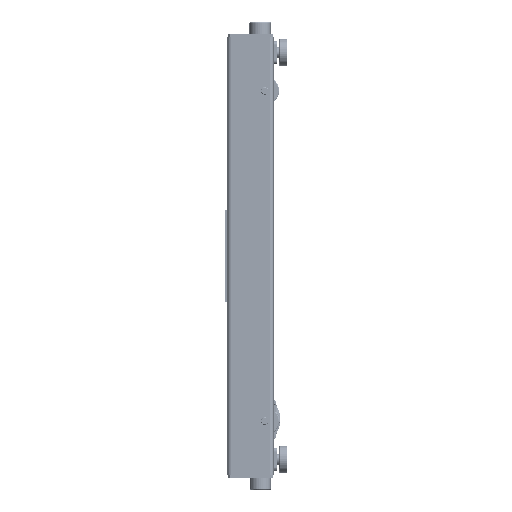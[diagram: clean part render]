
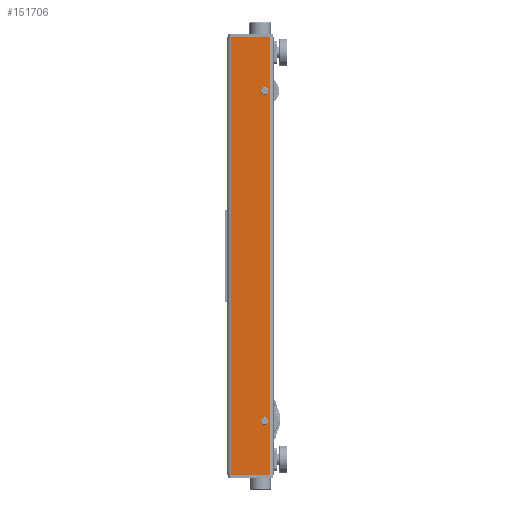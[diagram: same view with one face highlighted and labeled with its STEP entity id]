
A CAD part, left-side view. The second image highlights one B-rep face of the part: STEP entity #151706.
In plain terms, the highlighted planar face has unit normal (-1, 0, 0).
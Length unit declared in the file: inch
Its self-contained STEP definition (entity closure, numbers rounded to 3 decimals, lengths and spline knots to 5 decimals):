
#3448 = DIRECTION ( 'NONE',  ( 0., -1., 0. ) ) ;
#6006 = CARTESIAN_POINT ( 'NONE',  ( 0., 0.5, -28.5625 ) ) ;
#12121 = VECTOR ( 'NONE', #3448, 39.37008 ) ;
#14020 = DIRECTION ( 'NONE',  ( 0., 1., 0. ) ) ;
#14805 = FACE_BOUND ( 'NONE', #133606, .T. ) ;
#22388 = EDGE_CURVE ( 'NONE', #128315, #112074, #40128, .T. ) ;
#25956 = VECTOR ( 'NONE', #46142, 39.37008 ) ;
#26739 = VERTEX_POINT ( 'NONE', #48445 ) ;
#26890 = AXIS2_PLACEMENT_3D ( 'NONE', #117154, #105209, #154714 ) ;
#28764 = ORIENTED_EDGE ( 'NONE', *, *, #129044, .T. ) ;
#29024 = CARTESIAN_POINT ( 'NONE',  ( 0., 5.5, 28.5625 ) ) ;
#31302 = EDGE_CURVE ( 'NONE', #45997, #26739, #146678, .T. ) ;
#32058 = AXIS2_PLACEMENT_3D ( 'NONE', #123244, #63440, #14020 ) ;
#40128 = CIRCLE ( 'NONE', #63000, 0.4925 ) ;
#41900 = VECTOR ( 'NONE', #68180, 39.37008 ) ;
#44699 = CIRCLE ( 'NONE', #26890, 0.4925 ) ;
#44794 = CARTESIAN_POINT ( 'NONE',  ( 0., 5.5, -28.5625 ) ) ;
#45997 = VERTEX_POINT ( 'NONE', #129105 ) ;
#46142 = DIRECTION ( 'NONE',  ( 0., 0., -1. ) ) ;
#48445 = CARTESIAN_POINT ( 'NONE',  ( 0., 1.6375, -21.5005 ) ) ;
#52262 = FACE_BOUND ( 'NONE', #127250, .T. ) ;
#57476 = DIRECTION ( 'NONE',  ( 0., 1., 0. ) ) ;
#58518 = EDGE_CURVE ( 'NONE', #80192, #107653, #116331, .T. ) ;
#63000 = AXIS2_PLACEMENT_3D ( 'NONE', #91673, #70079, #152365 ) ;
#63440 = DIRECTION ( 'NONE',  ( 1., 0., 0. ) ) ;
#66600 = CARTESIAN_POINT ( 'NONE',  ( 0., 0.5, 28.5625 ) ) ;
#67969 = ORIENTED_EDGE ( 'NONE', *, *, #90364, .T. ) ;
#68180 = DIRECTION ( 'NONE',  ( 0., -1., 0. ) ) ;
#70079 = DIRECTION ( 'NONE',  ( 1., 0., 0. ) ) ;
#72306 = ORIENTED_EDGE ( 'NONE', *, *, #84017, .F. ) ;
#74125 = CARTESIAN_POINT ( 'NONE',  ( 0., 0.5, -28.5625 ) ) ;
#74641 = PLANE ( 'NONE',  #32058 ) ;
#78365 = EDGE_CURVE ( 'NONE', #136025, #153878, #111508, .T. ) ;
#80192 = VERTEX_POINT ( 'NONE', #29024 ) ;
#84017 = EDGE_CURVE ( 'NONE', #80192, #136025, #110785, .T. ) ;
#84619 = CARTESIAN_POINT ( 'NONE',  ( 0., 1.145, -21.5005 ) ) ;
#85383 = ORIENTED_EDGE ( 'NONE', *, *, #58518, .T. ) ;
#90364 = EDGE_CURVE ( 'NONE', #107653, #153878, #141558, .T. ) ;
#90510 = CARTESIAN_POINT ( 'NONE',  ( 0., 1.6375, 21.5005 ) ) ;
#91223 = CARTESIAN_POINT ( 'NONE',  ( 0., 1.145, -21.5005 ) ) ;
#91479 = CIRCLE ( 'NONE', #128586, 0.4925 ) ;
#91673 = CARTESIAN_POINT ( 'NONE',  ( 0., 1.145, 21.5005 ) ) ;
#100344 = CARTESIAN_POINT ( 'NONE',  ( 0., 0.5, 28.5625 ) ) ;
#100899 = FACE_OUTER_BOUND ( 'NONE', #151169, .T. ) ;
#105176 = CARTESIAN_POINT ( 'NONE',  ( 0., 5.5, 28.5625 ) ) ;
#105209 = DIRECTION ( 'NONE',  ( 1., 0., 0. ) ) ;
#107653 = VERTEX_POINT ( 'NONE', #44794 ) ;
#108175 = ORIENTED_EDGE ( 'NONE', *, *, #31302, .T. ) ;
#110785 = LINE ( 'NONE', #122783, #12121 ) ;
#111508 = LINE ( 'NONE', #100344, #148929 ) ;
#112074 = VERTEX_POINT ( 'NONE', #140201 ) ;
#112289 = DIRECTION ( 'NONE',  ( 0., 0., -1. ) ) ;
#115884 = DIRECTION ( 'NONE',  ( 1., 0., 0. ) ) ;
#116331 = LINE ( 'NONE', #105176, #25956 ) ;
#117154 = CARTESIAN_POINT ( 'NONE',  ( 0., 1.145, 21.5005 ) ) ;
#119677 = DIRECTION ( 'NONE',  ( 0., 1., 0. ) ) ;
#121524 = ORIENTED_EDGE ( 'NONE', *, *, #150116, .T. ) ;
#122783 = CARTESIAN_POINT ( 'NONE',  ( 0., 0.5, 28.5625 ) ) ;
#123244 = CARTESIAN_POINT ( 'NONE',  ( 0., 0.5, 28.5625 ) ) ;
#127250 = EDGE_LOOP ( 'NONE', ( #145750, #28764 ) ) ;
#128315 = VERTEX_POINT ( 'NONE', #90510 ) ;
#128586 = AXIS2_PLACEMENT_3D ( 'NONE', #91223, #115884, #57476 ) ;
#129044 = EDGE_CURVE ( 'NONE', #112074, #128315, #44699, .T. ) ;
#129105 = CARTESIAN_POINT ( 'NONE',  ( 0., 0.6525, -21.5005 ) ) ;
#133255 = DIRECTION ( 'NONE',  ( 1., 0., 0. ) ) ;
#133606 = EDGE_LOOP ( 'NONE', ( #121524, #108175 ) ) ;
#136025 = VERTEX_POINT ( 'NONE', #66600 ) ;
#140201 = CARTESIAN_POINT ( 'NONE',  ( 0., 0.6525, 21.5005 ) ) ;
#141558 = LINE ( 'NONE', #6006, #41900 ) ;
#145750 = ORIENTED_EDGE ( 'NONE', *, *, #22388, .T. ) ;
#146678 = CIRCLE ( 'NONE', #156844, 0.4925 ) ;
#148029 = ORIENTED_EDGE ( 'NONE', *, *, #78365, .F. ) ;
#148929 = VECTOR ( 'NONE', #112289, 39.37008 ) ;
#150116 = EDGE_CURVE ( 'NONE', #26739, #45997, #91479, .T. ) ;
#151169 = EDGE_LOOP ( 'NONE', ( #67969, #148029, #72306, #85383 ) ) ;
#151706 = ADVANCED_FACE ( 'NONE', ( #52262, #14805, #100899 ), #74641, .F. ) ;
#152365 = DIRECTION ( 'NONE',  ( 0., 1., 0. ) ) ;
#153878 = VERTEX_POINT ( 'NONE', #74125 ) ;
#154714 = DIRECTION ( 'NONE',  ( 0., 1., 0. ) ) ;
#156844 = AXIS2_PLACEMENT_3D ( 'NONE', #84619, #133255, #119677 ) ;
